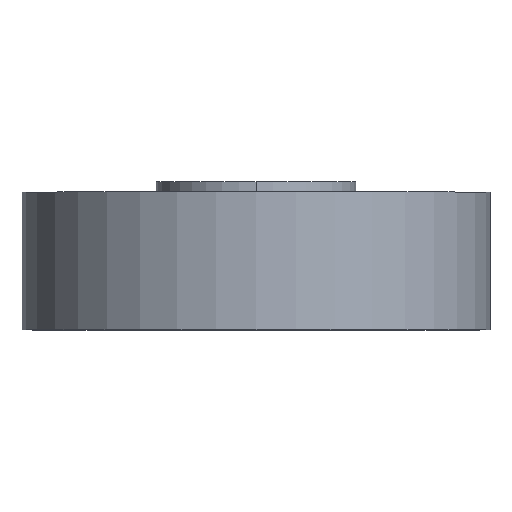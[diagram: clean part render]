
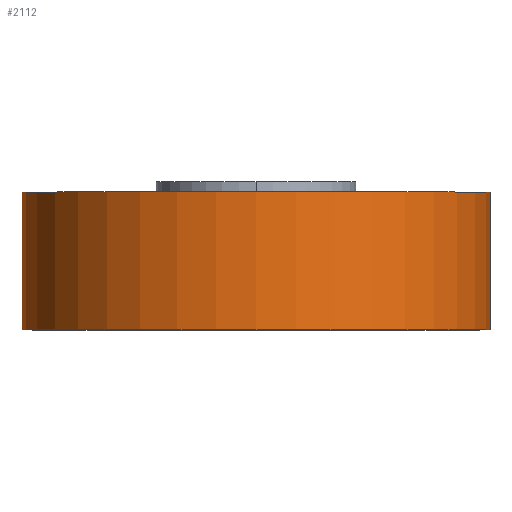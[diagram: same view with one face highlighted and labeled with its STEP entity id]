
A CAD part, top view. The second image highlights one B-rep face of the part: STEP entity #2112.
In plain terms, the highlighted cylindrical face has radius 68 mm (diameter 136 mm), a partial arc.
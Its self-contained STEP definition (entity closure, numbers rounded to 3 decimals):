
#436 = CIRCLE ( 'NONE', #2318, 68. ) ;
#1354 = AXIS2_PLACEMENT_3D ( 'NONE', #7745, #1477, #11358 ) ;
#1477 = DIRECTION ( 'NONE',  ( 0., 1., 0. ) ) ;
#1801 = DIRECTION ( 'NONE',  ( 0., 1., 0. ) ) ;
#2112 = ADVANCED_FACE ( 'NONE', ( #3885 ), #2989, .T. ) ;
#2190 = EDGE_LOOP ( 'NONE', ( #9994, #9251, #3241, #4571 ) ) ;
#2270 = LINE ( 'NONE', #5078, #6822 ) ;
#2318 = AXIS2_PLACEMENT_3D ( 'NONE', #8016, #1801, #5523 ) ;
#2876 = VERTEX_POINT ( 'NONE', #4412 ) ;
#2989 = CYLINDRICAL_SURFACE ( 'NONE', #8994, 68. ) ;
#3053 = VERTEX_POINT ( 'NONE', #6691 ) ;
#3241 = ORIENTED_EDGE ( 'NONE', *, *, #10748, .T. ) ;
#3885 = FACE_OUTER_BOUND ( 'NONE', #2190, .T. ) ;
#4212 = CIRCLE ( 'NONE', #1354, 68. ) ;
#4412 = CARTESIAN_POINT ( 'NONE',  ( -14.204, 40., -66.5 ) ) ;
#4497 = VERTEX_POINT ( 'NONE', #9029 ) ;
#4571 = ORIENTED_EDGE ( 'NONE', *, *, #7437, .T. ) ;
#5078 = CARTESIAN_POINT ( 'NONE',  ( -14.204, 327.602, -66.5 ) ) ;
#5523 = DIRECTION ( 'NONE',  ( 0., 0., 1. ) ) ;
#5609 = DIRECTION ( 'NONE',  ( 0., -1., 0. ) ) ;
#5704 = DIRECTION ( 'NONE',  ( 0., 0., -1. ) ) ;
#5839 = CARTESIAN_POINT ( 'NONE',  ( 14.204, 327.602, -66.5 ) ) ;
#6604 = LINE ( 'NONE', #5839, #7048 ) ;
#6691 = CARTESIAN_POINT ( 'NONE',  ( 14.204, 40., -66.5 ) ) ;
#6822 = VECTOR ( 'NONE', #7669, 1000. ) ;
#7048 = VECTOR ( 'NONE', #5609, 1000. ) ;
#7093 = EDGE_CURVE ( 'NONE', #3053, #10523, #6604, .T. ) ;
#7437 = EDGE_CURVE ( 'NONE', #4497, #10523, #436, .T. ) ;
#7525 = DIRECTION ( 'NONE',  ( 0., -1., 0. ) ) ;
#7669 = DIRECTION ( 'NONE',  ( 0., -1., 0. ) ) ;
#7745 = CARTESIAN_POINT ( 'NONE',  ( 0., 40., 0. ) ) ;
#8016 = CARTESIAN_POINT ( 'NONE',  ( 0., 0., 0. ) ) ;
#8994 = AXIS2_PLACEMENT_3D ( 'NONE', #10325, #7525, #5704 ) ;
#9029 = CARTESIAN_POINT ( 'NONE',  ( -14.204, 0., -66.5 ) ) ;
#9251 = ORIENTED_EDGE ( 'NONE', *, *, #9772, .F. ) ;
#9772 = EDGE_CURVE ( 'NONE', #2876, #3053, #4212, .T. ) ;
#9994 = ORIENTED_EDGE ( 'NONE', *, *, #7093, .F. ) ;
#10325 = CARTESIAN_POINT ( 'NONE',  ( 0., 40., 0. ) ) ;
#10523 = VERTEX_POINT ( 'NONE', #11648 ) ;
#10748 = EDGE_CURVE ( 'NONE', #2876, #4497, #2270, .T. ) ;
#11358 = DIRECTION ( 'NONE',  ( 0., 0., 1. ) ) ;
#11648 = CARTESIAN_POINT ( 'NONE',  ( 14.204, 0., -66.5 ) ) ;
